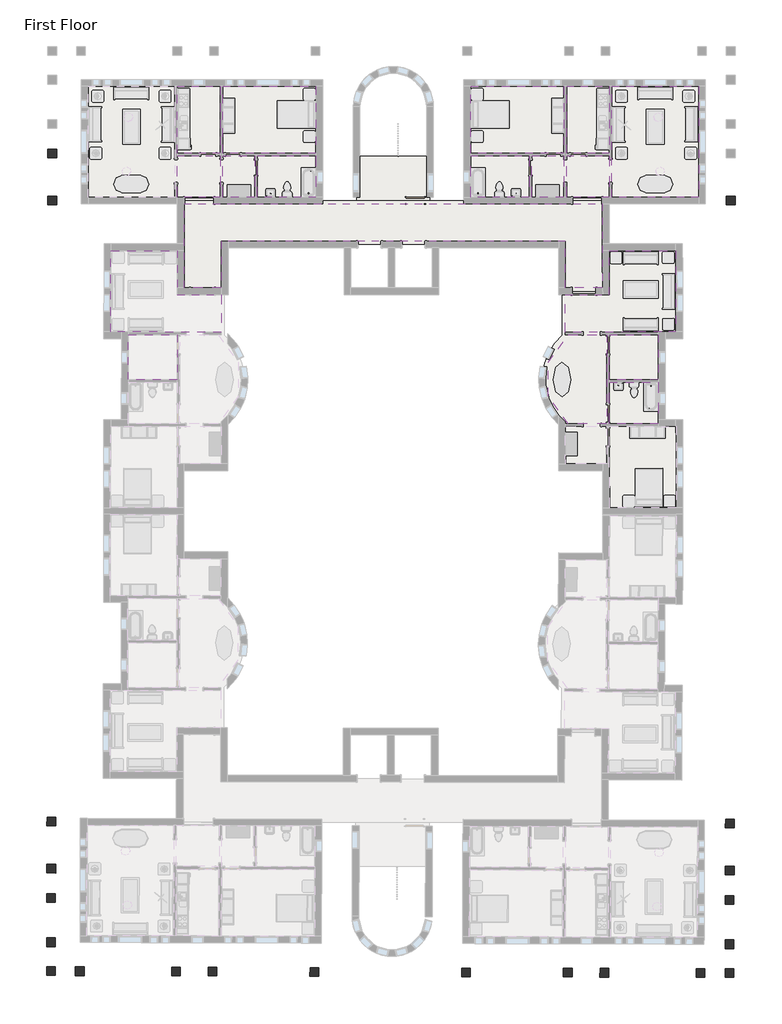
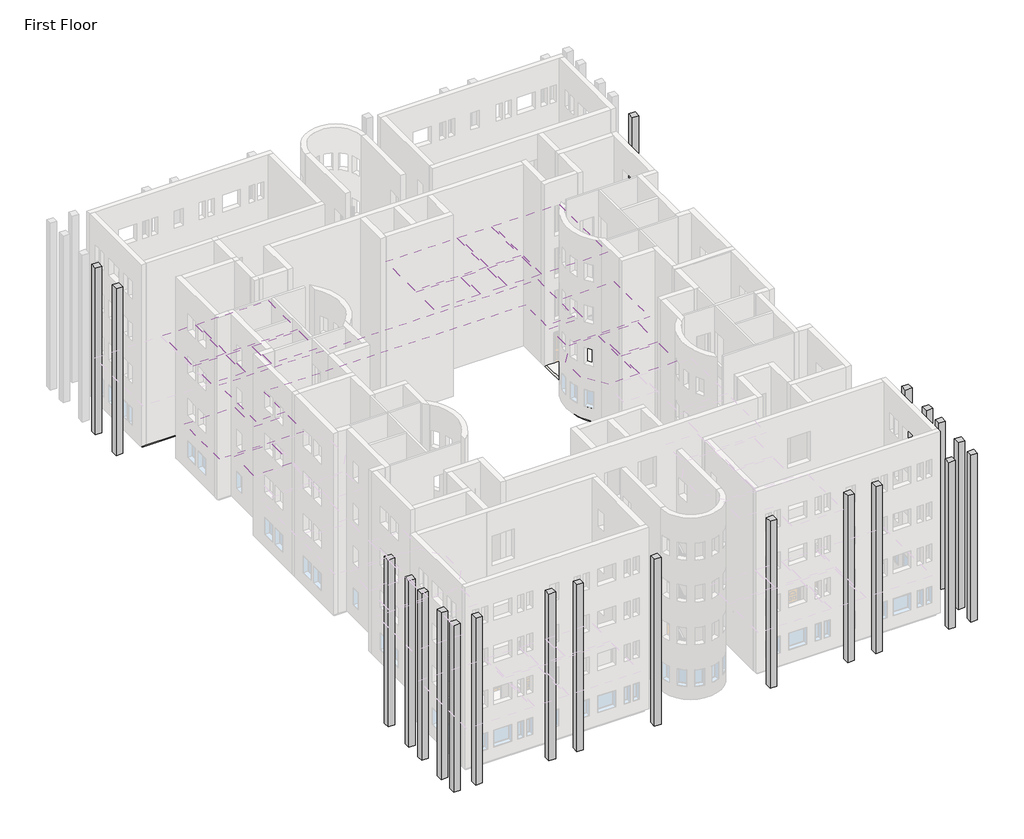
# One storey, part 17 of 22: 21 columns, 18 coverings, 5 slabs.
"""IFC4 building model written with IfcOpenShell, lengths in millimetres."""

from ifc_helpers import new_model, si_unit, point, frame, frame_2d, origin, place, context, project, spatial, polyline, circle_curve, trimmed, segment, composite_curve, outline, extrude, faceted_brep, element, save

model = new_model("IFC4")

# Units and contexts
model_context = context("Model", 3, world=origin())
ifc_project = project(units=[si_unit("LENGTHUNIT", "METRE", prefix="MILLI")], contexts=[model_context])

# Site, building, storey
site = spatial("IfcSite", under=ifc_project)
building = spatial("IfcBuilding", under=site)
storey = spatial("IfcBuildingStorey", under=building, Name="First Floor", Elevation=0.0)

# Columns
placement = place(None, origin())
element("IfcColumn", 1, ObjectType="M_Concrete-Square-Column : 450 x 450mm", at=placement, inside=storey, context=model_context, shape_type="Brep", body=[
    faceted_brep([(-1193.3416203, -3289.8811614, 0.0), (-1193.3416203, -3739.8811614, 0.0), (-1643.3416203, -3739.8811614, 0.0), (-1643.3416203, -3289.8811614, 0.0), (-1193.3416203, -3289.8811614, 12042.0), (-1193.3416203, -3739.8811614, 12042.0), (-1193.3416203, -3739.8811614, 11742.0), (-1193.3416203, -3289.8811614, 11742.0), (-1643.3416203, -3739.8811614, 12042.0), (-1643.3416203, -3739.8811614, 11742.0), (-1643.3416203, -3289.8811614, 12042.0), (-1643.3416203, -3289.8811614, 11742.0)], [[[0, 1, 2, 3]], [[4, 5, 6, 1, 0, 7]], [[5, 8, 9, 2, 1, 6]], [[8, 10, 11, 3, 2, 9]], [[10, 4, 7, 0, 3, 11]], [[4, 10, 8, 5]]]),
])
element("IfcColumn", 2, ObjectType="M_Concrete-Square-Column : 450 x 450mm", at=placement, inside=storey, context=model_context, shape_type="Brep", body=[
    faceted_brep([(-36908.8416203, -845.3811614, 0.0), (-36458.8416203, -845.3811614, 0.0), (-36458.8416203, -1295.3811614, 0.0), (-36908.8416203, -1295.3811614, 0.0), (-36908.8416203, -845.3811614, 12042.0), (-36908.8416203, -845.3811614, 11742.0), (-36908.8416203, -845.3811614, 9144.0), (-36908.8416203, -845.3811614, 8694.0), (-36908.8416203, -845.3811614, 6096.0), (-36908.8416203, -845.3811614, 5646.0), (-36908.8416203, -845.3811614, 3048.0), (-36908.8416203, -845.3811614, 2598.0), (-36908.8416203, -1295.3811614, 2598.0), (-36908.8416203, -1295.3811614, 3048.0), (-36908.8416203, -1295.3811614, 5646.0), (-36908.8416203, -1295.3811614, 6096.0), (-36908.8416203, -1295.3811614, 8694.0), (-36908.8416203, -1295.3811614, 9144.0), (-36908.8416203, -1295.3811614, 11742.0), (-36908.8416203, -1295.3811614, 12042.0), (-36458.8416203, -1295.3811614, 2598.0), (-36458.8416203, -1295.3811614, 3048.0), (-36458.8416203, -1295.3811614, 5646.0), (-36458.8416203, -1295.3811614, 6096.0), (-36458.8416203, -1295.3811614, 8694.0), (-36458.8416203, -1295.3811614, 9144.0), (-36458.8416203, -1295.3811614, 11742.0), (-36458.8416203, -1295.3811614, 12042.0), (-36458.8416203, -845.3811614, 2598.0), (-36458.8416203, -845.3811614, 3048.0), (-36458.8416203, -845.3811614, 5646.0), (-36458.8416203, -845.3811614, 6096.0), (-36458.8416203, -845.3811614, 8694.0), (-36458.8416203, -845.3811614, 9144.0), (-36458.8416203, -845.3811614, 11742.0), (-36458.8416203, -845.3811614, 12042.0)], [[[0, 1, 2, 3]], [[4, 5, 6, 7, 8, 9, 10, 11, 0, 3, 12, 13, 14, 15, 16, 17, 18, 19]], [[19, 18, 17, 16, 15, 14, 13, 12, 3, 2, 20, 21, 22, 23, 24, 25, 26, 27]], [[27, 26, 25, 24, 23, 22, 21, 20, 2, 1, 28, 29, 30, 31, 32, 33, 34, 35]], [[35, 34, 33, 32, 31, 30, 29, 28, 1, 0, 11, 10, 9, 8, 7, 6, 5, 4]], [[4, 19, 27, 35]]]),
])
element("IfcColumn", 3, ObjectType="M_Concrete-Square-Column : 450 x 450mm", at=placement, inside=storey, context=model_context, shape_type="Brep", body=[
    faceted_brep([(-36908.8416203, -3289.8811614, 0.0), (-36458.8416203, -3289.8811614, 0.0), (-36458.8416203, -3739.8811614, 0.0), (-36908.8416203, -3739.8811614, 0.0), (-36908.8416203, -3289.8811614, 12042.0), (-36908.8416203, -3289.8811614, 11742.0), (-36908.8416203, -3739.8811614, 11742.0), (-36908.8416203, -3739.8811614, 12042.0), (-36458.8416203, -3739.8811614, 11742.0), (-36458.8416203, -3739.8811614, 12042.0), (-36458.8416203, -3289.8811614, 11742.0), (-36458.8416203, -3289.8811614, 12042.0)], [[[0, 1, 2, 3]], [[4, 5, 0, 3, 6, 7]], [[7, 6, 3, 2, 8, 9]], [[9, 8, 2, 1, 10, 11]], [[11, 10, 1, 0, 5, 4]], [[4, 7, 9, 11]]]),
])
element("IfcColumn", 4, ObjectType="M_Concrete-Square-Column : 450 x 450mm", at=placement, inside=storey, context=model_context, shape_type="Brep", body=[
    faceted_brep([(-2763.3672453, -43898.1641037, 0.0), (-3213.3653598, -43896.8614194, 0.0), (-3212.0626755, -43446.863305, 0.0), (-2762.0645611, -43448.1659892, 0.0), (-2763.3672453, -43898.1641037, 12042.0), (-2763.3672453, -43898.1641037, 11742.0), (-2763.3672453, -43898.1641037, 9144.0), (-2763.3672453, -43898.1641037, 8694.0), (-2763.3672453, -43898.1641037, 6096.0), (-2763.3672453, -43898.1641037, 5646.0), (-2763.3672453, -43898.1641037, 3048.0), (-2763.3672453, -43898.1641037, 2598.0), (-2762.0645611, -43448.1659892, 2598.0), (-2762.0645611, -43448.1659892, 3048.0), (-2762.0645611, -43448.1659892, 5646.0), (-2762.0645611, -43448.1659892, 6096.0), (-2762.0645611, -43448.1659892, 8694.0), (-2762.0645611, -43448.1659892, 9144.0), (-2762.0645611, -43448.1659892, 11742.0), (-2762.0645611, -43448.1659892, 12042.0), (-3212.0626755, -43446.863305, 2598.0), (-3212.0626755, -43446.863305, 3048.0), (-3212.0626755, -43446.863305, 5646.0), (-3212.0626755, -43446.863305, 6096.0), (-3212.0626755, -43446.863305, 8694.0), (-3212.0626755, -43446.863305, 9144.0), (-3212.0626755, -43446.863305, 11742.0), (-3212.0626755, -43446.863305, 12042.0), (-3213.3653598, -43896.8614194, 2598.0), (-3213.3653598, -43896.8614194, 3048.0), (-3213.3653598, -43896.8614194, 5646.0), (-3213.3653598, -43896.8614194, 6096.0), (-3213.3653598, -43896.8614194, 8694.0), (-3213.3653598, -43896.8614194, 9144.0), (-3213.3653598, -43896.8614194, 11742.0), (-3213.3653598, -43896.8614194, 12042.0)], [[[0, 1, 2, 3]], [[4, 5, 6, 7, 8, 9, 10, 11, 0, 3, 12, 13, 14, 15, 16, 17, 18, 19]], [[19, 18, 17, 16, 15, 14, 13, 12, 3, 2, 20, 21, 22, 23, 24, 25, 26, 27]], [[27, 26, 25, 24, 23, 22, 21, 20, 2, 1, 28, 29, 30, 31, 32, 33, 34, 35]], [[35, 34, 33, 32, 31, 30, 29, 28, 1, 0, 11, 10, 9, 8, 7, 6, 5, 4]], [[4, 19, 27, 35]]]),
])
element("IfcColumn", 5, ObjectType="M_Concrete-Square-Column : 450 x 450mm", at=placement, inside=storey, context=model_context, shape_type="Brep", body=[
    faceted_brep([(-7763.3462948, -43883.6898341, 0.0), (-8213.3444093, -43882.3871498, 0.0), (-8212.041725, -43432.3890354, 0.0), (-7762.0436106, -43433.6917196, 0.0), (-7763.3462948, -43883.6898341, 12042.0), (-7763.3462948, -43883.6898341, 11742.0), (-7763.3462948, -43883.6898341, 9144.0), (-7763.3462948, -43883.6898341, 8694.0), (-7763.3462948, -43883.6898341, 6096.0), (-7763.3462948, -43883.6898341, 5646.0), (-7763.3462948, -43883.6898341, 3048.0), (-7763.3462948, -43883.6898341, 2598.0), (-7762.0436106, -43433.6917196, 2598.0), (-7762.0436106, -43433.6917196, 3048.0), (-7762.0436106, -43433.6917196, 5646.0), (-7762.0436106, -43433.6917196, 6096.0), (-7762.0436106, -43433.6917196, 8694.0), (-7762.0436106, -43433.6917196, 9144.0), (-7762.0436106, -43433.6917196, 11742.0), (-7762.0436106, -43433.6917196, 12042.0), (-8212.041725, -43432.3890354, 2598.0), (-8212.041725, -43432.3890354, 3048.0), (-8212.041725, -43432.3890354, 5646.0), (-8212.041725, -43432.3890354, 6096.0), (-8212.041725, -43432.3890354, 8694.0), (-8212.041725, -43432.3890354, 9144.0), (-8212.041725, -43432.3890354, 11742.0), (-8212.041725, -43432.3890354, 12042.0), (-8213.3444093, -43882.3871498, 2598.0), (-8213.3444093, -43882.3871498, 3048.0), (-8213.3444093, -43882.3871498, 5646.0), (-8213.3444093, -43882.3871498, 6096.0), (-8213.3444093, -43882.3871498, 8694.0), (-8213.3444093, -43882.3871498, 9144.0), (-8213.3444093, -43882.3871498, 11742.0), (-8213.3444093, -43882.3871498, 12042.0)], [[[0, 1, 2, 3]], [[4, 5, 6, 7, 8, 9, 10, 11, 0, 3, 12, 13, 14, 15, 16, 17, 18, 19]], [[19, 18, 17, 16, 15, 14, 13, 12, 3, 2, 20, 21, 22, 23, 24, 25, 26, 27]], [[27, 26, 25, 24, 23, 22, 21, 20, 2, 1, 28, 29, 30, 31, 32, 33, 34, 35]], [[35, 34, 33, 32, 31, 30, 29, 28, 1, 0, 11, 10, 9, 8, 7, 6, 5, 4]], [[4, 19, 27, 35]]]),
])
element("IfcColumn", 6, ObjectType="M_Concrete-Square-Column : 450 x 450mm", at=placement, inside=storey, context=model_context, shape_type="Brep", body=[
    faceted_brep([(-9663.3383336, -43878.1896117, 0.0), (-10113.3364481, -43876.8869274, 0.0), (-10112.0337638, -43426.888813, 0.0), (-9662.0356494, -43428.1914972, 0.0), (-9663.3383336, -43878.1896117, 12042.0), (-9663.3383336, -43878.1896117, 11742.0), (-9663.3383336, -43878.1896117, 9144.0), (-9663.3383336, -43878.1896117, 8694.0), (-9663.3383336, -43878.1896117, 6096.0), (-9663.3383336, -43878.1896117, 5646.0), (-9663.3383336, -43878.1896117, 3048.0), (-9663.3383336, -43878.1896117, 2598.0), (-9662.0356494, -43428.1914972, 2598.0), (-9662.0356494, -43428.1914972, 3048.0), (-9662.0356494, -43428.1914972, 5646.0), (-9662.0356494, -43428.1914972, 6096.0), (-9662.0356494, -43428.1914972, 8694.0), (-9662.0356494, -43428.1914972, 9144.0), (-9662.0356494, -43428.1914972, 11742.0), (-9662.0356494, -43428.1914972, 12042.0), (-10112.0337638, -43426.888813, 2598.0), (-10112.0337638, -43426.888813, 3048.0), (-10112.0337638, -43426.888813, 5646.0), (-10112.0337638, -43426.888813, 6096.0), (-10112.0337638, -43426.888813, 8694.0), (-10112.0337638, -43426.888813, 9144.0), (-10112.0337638, -43426.888813, 11742.0), (-10112.0337638, -43426.888813, 12042.0), (-10113.3364481, -43876.8869274, 2598.0), (-10113.3364481, -43876.8869274, 3048.0), (-10113.3364481, -43876.8869274, 5646.0), (-10113.3364481, -43876.8869274, 6096.0), (-10113.3364481, -43876.8869274, 8694.0), (-10113.3364481, -43876.8869274, 9144.0), (-10113.3364481, -43876.8869274, 11742.0), (-10113.3364481, -43876.8869274, 12042.0)], [[[0, 1, 2, 3]], [[4, 5, 6, 7, 8, 9, 10, 11, 0, 3, 12, 13, 14, 15, 16, 17, 18, 19]], [[19, 18, 17, 16, 15, 14, 13, 12, 3, 2, 20, 21, 22, 23, 24, 25, 26, 27]], [[27, 26, 25, 24, 23, 22, 21, 20, 2, 1, 28, 29, 30, 31, 32, 33, 34, 35]], [[35, 34, 33, 32, 31, 30, 29, 28, 1, 0, 11, 10, 9, 8, 7, 6, 5, 4]], [[4, 19, 27, 35]]]),
])
element("IfcColumn", 7, ObjectType="M_Concrete-Square-Column : 450 x 450mm", at=placement, inside=storey, context=model_context, shape_type="Brep", body=[
    faceted_brep([(-14955.3161596, -43862.8700448, 0.0), (-15405.3142741, -43861.5673605, 0.0), (-15404.0115898, -43411.569246, 0.0), (-14954.0134754, -43412.8719303, 0.0), (-14955.3161596, -43862.8700448, 12042.0), (-14955.3161596, -43862.8700448, 11742.0), (-14954.0134754, -43412.8719303, 11742.0), (-14954.0134754, -43412.8719303, 12042.0), (-15404.0115898, -43411.569246, 11742.0), (-15404.0115898, -43411.569246, 12042.0), (-15405.3142741, -43861.5673605, 11742.0), (-15405.3142741, -43861.5673605, 12042.0)], [[[0, 1, 2, 3]], [[4, 5, 0, 3, 6, 7]], [[7, 6, 3, 2, 8, 9]], [[9, 8, 2, 1, 10, 11]], [[11, 10, 1, 0, 5, 4]], [[4, 7, 9, 11]]]),
])
element("IfcColumn", 8, ObjectType="M_Concrete-Square-Column : 450 x 450mm", at=placement, inside=storey, context=model_context, shape_type="Brep", body=[
    faceted_brep([(-1263.3735305, -43902.5063845, 0.0), (-1713.3716449, -43901.2037003, 0.0), (-1712.0689607, -43451.2055858, 0.0), (-1262.0708462, -43452.5082701, 0.0), (-1263.3735305, -43902.5063845, 12042.0), (-1262.0708462, -43452.5082701, 11742.0), (-1262.0708462, -43452.5082701, 12042.0), (-1712.0689607, -43451.2055858, 11742.0), (-1712.0689607, -43451.2055858, 12042.0), (-1713.3716449, -43901.2037003, 11742.0), (-1713.3716449, -43901.2037003, 12042.0)], [[[0, 1, 2, 3]], [[4, 0, 3, 5, 6]], [[6, 5, 3, 2, 7, 8]], [[8, 7, 2, 1, 9, 10]], [[10, 9, 1, 0, 4]], [[4, 6, 8, 10]]]),
])
element("IfcColumn", 9, ObjectType="M_Concrete-Square-Column : 450 x 450mm", at=placement, inside=storey, context=model_context, shape_type="Brep", body=[
    faceted_brep([(-1259.0312496, -42402.5126697, 0.0), (-1709.0293641, -42401.2099854, 0.0), (-1707.7266798, -41951.211871, 0.0), (-1257.7285653, -41952.5145552, 0.0), (-1259.0312496, -42402.5126697, 12042.0), (-1259.0312496, -42402.5126697, 11742.0), (-1259.0312496, -42402.5126697, 9144.0), (-1259.0312496, -42402.5126697, 8694.0), (-1259.0312496, -42402.5126697, 6096.0), (-1259.0312496, -42402.5126697, 5646.0), (-1259.0312496, -42402.5126697, 3048.0), (-1259.0312496, -42402.5126697, 2598.0), (-1257.7285653, -41952.5145552, 2598.0), (-1257.7285653, -41952.5145552, 3048.0), (-1257.7285653, -41952.5145552, 5646.0), (-1257.7285653, -41952.5145552, 6096.0), (-1257.7285653, -41952.5145552, 8694.0), (-1257.7285653, -41952.5145552, 9144.0), (-1257.7285653, -41952.5145552, 11742.0), (-1257.7285653, -41952.5145552, 12042.0), (-1707.7266798, -41951.211871, 2598.0), (-1707.7266798, -41951.211871, 3048.0), (-1707.7266798, -41951.211871, 5646.0), (-1707.7266798, -41951.211871, 6096.0), (-1707.7266798, -41951.211871, 8694.0), (-1707.7266798, -41951.211871, 9144.0), (-1707.7266798, -41951.211871, 11742.0), (-1707.7266798, -41951.211871, 12042.0), (-1709.0293641, -42401.2099854, 2598.0), (-1709.0293641, -42401.2099854, 3048.0), (-1709.0293641, -42401.2099854, 5646.0), (-1709.0293641, -42401.2099854, 6096.0), (-1709.0293641, -42401.2099854, 8694.0), (-1709.0293641, -42401.2099854, 9144.0), (-1709.0293641, -42401.2099854, 11742.0), (-1709.0293641, -42401.2099854, 12042.0)], [[[0, 1, 2, 3]], [[4, 5, 6, 7, 8, 9, 10, 11, 0, 3, 12, 13, 14, 15, 16, 17, 18, 19]], [[19, 18, 17, 16, 15, 14, 13, 12, 3, 2, 20, 21, 22, 23, 24, 25, 26, 27]], [[27, 26, 25, 24, 23, 22, 21, 20, 2, 1, 28, 29, 30, 31, 32, 33, 34, 35]], [[35, 34, 33, 32, 31, 30, 29, 28, 1, 0, 11, 10, 9, 8, 7, 6, 5, 4]], [[4, 19, 27, 35]]]),
])
element("IfcColumn", 10, ObjectType="M_Concrete-Square-Column : 450 x 450mm", at=placement, inside=storey, context=model_context, shape_type="Brep", body=[
    faceted_brep([(-1252.3730856, -40102.5223069, 0.0), (-1702.3712001, -40101.2196227, 0.0), (-1701.0685158, -39651.2215082, 0.0), (-1251.0704013, -39652.5241925, 0.0), (-1252.3730856, -40102.5223069, 12042.0), (-1252.3730856, -40102.5223069, 11742.0), (-1252.3730856, -40102.5223069, 9144.0), (-1252.3730856, -40102.5223069, 8694.0), (-1252.3730856, -40102.5223069, 6096.0), (-1252.3730856, -40102.5223069, 5646.0), (-1252.3730856, -40102.5223069, 3048.0), (-1252.3730856, -40102.5223069, 2598.0), (-1251.0704013, -39652.5241925, 2598.0), (-1251.0704013, -39652.5241925, 3048.0), (-1251.0704013, -39652.5241925, 5646.0), (-1251.0704013, -39652.5241925, 6096.0), (-1251.0704013, -39652.5241925, 8694.0), (-1251.0704013, -39652.5241925, 9144.0), (-1251.0704013, -39652.5241925, 11742.0), (-1251.0704013, -39652.5241925, 12042.0), (-1701.0685158, -39651.2215082, 2598.0), (-1701.0685158, -39651.2215082, 3048.0), (-1701.0685158, -39651.2215082, 5646.0), (-1701.0685158, -39651.2215082, 6096.0), (-1701.0685158, -39651.2215082, 8694.0), (-1701.0685158, -39651.2215082, 9144.0), (-1701.0685158, -39651.2215082, 11742.0), (-1701.0685158, -39651.2215082, 12042.0), (-1702.3712001, -40101.2196227, 2598.0), (-1702.3712001, -40101.2196227, 3048.0), (-1702.3712001, -40101.2196227, 5646.0), (-1702.3712001, -40101.2196227, 6096.0), (-1702.3712001, -40101.2196227, 8694.0), (-1702.3712001, -40101.2196227, 9144.0), (-1702.3712001, -40101.2196227, 11742.0), (-1702.3712001, -40101.2196227, 12042.0)], [[[0, 1, 2, 3]], [[4, 5, 6, 7, 8, 9, 10, 11, 0, 3, 12, 13, 14, 15, 16, 17, 18, 19]], [[19, 18, 17, 16, 15, 14, 13, 12, 3, 2, 20, 21, 22, 23, 24, 25, 26, 27]], [[27, 26, 25, 24, 23, 22, 21, 20, 2, 1, 28, 29, 30, 31, 32, 33, 34, 35]], [[35, 34, 33, 32, 31, 30, 29, 28, 1, 0, 11, 10, 9, 8, 7, 6, 5, 4]], [[4, 19, 27, 35]]]),
])
element("IfcColumn", 11, ObjectType="M_Concrete-Square-Column : 450 x 450mm", at=placement, inside=storey, context=model_context, shape_type="Brep", body=[
    faceted_brep([(-1247.9540911, -38576.0287031, 0.0), (-1697.9522056, -38574.7260188, 0.0), (-1696.6495213, -38124.7279044, 0.0), (-1246.6514068, -38126.0305886, 0.0), (-1247.9540911, -38576.0287031, 12042.0), (-1247.9540911, -38576.0287031, 11742.0), (-1247.9540911, -38576.0287031, 9144.0), (-1247.9540911, -38576.0287031, 8694.0), (-1247.9540911, -38576.0287031, 6096.0), (-1247.9540911, -38576.0287031, 5646.0), (-1247.9540911, -38576.0287031, 3048.0), (-1247.9540911, -38576.0287031, 2598.0), (-1246.6514068, -38126.0305886, 2598.0), (-1246.6514068, -38126.0305886, 3048.0), (-1246.6514068, -38126.0305886, 5646.0), (-1246.6514068, -38126.0305886, 6096.0), (-1246.6514068, -38126.0305886, 8694.0), (-1246.6514068, -38126.0305886, 9144.0), (-1246.6514068, -38126.0305886, 11742.0), (-1246.6514068, -38126.0305886, 12042.0), (-1696.6495213, -38124.7279044, 2598.0), (-1696.6495213, -38124.7279044, 3048.0), (-1696.6495213, -38124.7279044, 5646.0), (-1696.6495213, -38124.7279044, 6096.0), (-1696.6495213, -38124.7279044, 8694.0), (-1696.6495213, -38124.7279044, 9144.0), (-1696.6495213, -38124.7279044, 11742.0), (-1696.6495213, -38124.7279044, 12042.0), (-1697.9522056, -38574.7260188, 2598.0), (-1697.9522056, -38574.7260188, 3048.0), (-1697.9522056, -38574.7260188, 5646.0), (-1697.9522056, -38574.7260188, 6096.0), (-1697.9522056, -38574.7260188, 8694.0), (-1697.9522056, -38574.7260188, 9144.0), (-1697.9522056, -38574.7260188, 11742.0), (-1697.9522056, -38574.7260188, 12042.0)], [[[0, 1, 2, 3]], [[4, 5, 6, 7, 8, 9, 10, 11, 0, 3, 12, 13, 14, 15, 16, 17, 18, 19]], [[19, 18, 17, 16, 15, 14, 13, 12, 3, 2, 20, 21, 22, 23, 24, 25, 26, 27]], [[27, 26, 25, 24, 23, 22, 21, 20, 2, 1, 28, 29, 30, 31, 32, 33, 34, 35]], [[35, 34, 33, 32, 31, 30, 29, 28, 1, 0, 11, 10, 9, 8, 7, 6, 5, 4]], [[4, 19, 27, 35]]]),
])
element("IfcColumn", 12, ObjectType="M_Concrete-Square-Column : 450 x 450mm", at=placement, inside=storey, context=model_context, shape_type="Brep", body=[
    faceted_brep([(-1240.8776207, -36131.5389458, 0.0), (-1690.8757352, -36130.2362615, 0.0), (-1689.5730509, -35680.2381471, 0.0), (-1239.5749364, -35681.5408313, 0.0), (-1240.8776207, -36131.5389458, 12042.0), (-1240.8776207, -36131.5389458, 11742.0), (-1239.5749364, -35681.5408313, 11742.0), (-1239.5749364, -35681.5408313, 12042.0), (-1689.5730509, -35680.2381471, 11742.0), (-1689.5730509, -35680.2381471, 12042.0), (-1690.8757352, -36130.2362615, 11742.0), (-1690.8757352, -36130.2362615, 12042.0)], [[[0, 1, 2, 3]], [[4, 5, 0, 3, 6, 7]], [[7, 6, 3, 2, 8, 9]], [[9, 8, 2, 1, 10, 11]], [[11, 10, 1, 0, 5, 4]], [[4, 7, 9, 11]]]),
])
element("IfcColumn", 13, ObjectType="M_Concrete-Square-Column : 450 x 450mm", at=placement, inside=storey, context=model_context, shape_type="Brep", body=[
    faceted_brep([(-35478.7301642, -43803.4575104, 0.0), (-35477.4274799, -43353.459396, 0.0), (-35027.4293654, -43354.7620803, 0.0), (-35028.7320497, -43804.7601947, 0.0), (-35478.7301642, -43803.4575104, 12042.0), (-35477.4274799, -43353.459396, 12042.0), (-35477.4274799, -43353.459396, 11742.0), (-35477.4274799, -43353.459396, 9144.0), (-35477.4274799, -43353.459396, 8694.0), (-35477.4274799, -43353.459396, 6096.0), (-35477.4274799, -43353.459396, 5646.0), (-35477.4274799, -43353.459396, 3048.0), (-35477.4274799, -43353.459396, 2598.0), (-35478.7301642, -43803.4575104, 2598.0), (-35478.7301642, -43803.4575104, 3048.0), (-35478.7301642, -43803.4575104, 5646.0), (-35478.7301642, -43803.4575104, 6096.0), (-35478.7301642, -43803.4575104, 8694.0), (-35478.7301642, -43803.4575104, 9144.0), (-35478.7301642, -43803.4575104, 11742.0), (-35027.4293654, -43354.7620803, 12042.0), (-35027.4293654, -43354.7620803, 11742.0), (-35027.4293654, -43354.7620803, 9144.0), (-35027.4293654, -43354.7620803, 8694.0), (-35027.4293654, -43354.7620803, 6096.0), (-35027.4293654, -43354.7620803, 5646.0), (-35027.4293654, -43354.7620803, 3048.0), (-35027.4293654, -43354.7620803, 2598.0), (-35028.7320497, -43804.7601947, 12042.0), (-35028.7320497, -43804.7601947, 11742.0), (-35028.7320497, -43804.7601947, 9144.0), (-35028.7320497, -43804.7601947, 8694.0), (-35028.7320497, -43804.7601947, 6096.0), (-35028.7320497, -43804.7601947, 5646.0), (-35028.7320497, -43804.7601947, 3048.0), (-35028.7320497, -43804.7601947, 2598.0)], [[[0, 1, 2, 3]], [[4, 5, 6, 7, 8, 9, 10, 11, 12, 1, 0, 13, 14, 15, 16, 17, 18, 19]], [[5, 20, 21, 22, 23, 24, 25, 26, 27, 2, 1, 12, 11, 10, 9, 8, 7, 6]], [[20, 28, 29, 30, 31, 32, 33, 34, 35, 3, 2, 27, 26, 25, 24, 23, 22, 21]], [[28, 4, 19, 18, 17, 16, 15, 14, 13, 0, 3, 35, 34, 33, 32, 31, 30, 29]], [[4, 28, 20, 5]]]),
])
element("IfcColumn", 14, ObjectType="M_Concrete-Square-Column : 450 x 450mm", at=placement, inside=storey, context=model_context, shape_type="Brep", body=[
    faceted_brep([(-30478.7511147, -43817.93178, 0.0), (-30477.4484304, -43367.9336656, 0.0), (-30027.4503159, -43369.2363498, 0.0), (-30028.7530002, -43819.2344643, 0.0), (-30478.7511147, -43817.93178, 12042.0), (-30477.4484304, -43367.9336656, 12042.0), (-30477.4484304, -43367.9336656, 11742.0), (-30477.4484304, -43367.9336656, 9144.0), (-30477.4484304, -43367.9336656, 8694.0), (-30477.4484304, -43367.9336656, 6096.0), (-30477.4484304, -43367.9336656, 5646.0), (-30477.4484304, -43367.9336656, 3048.0), (-30477.4484304, -43367.9336656, 2598.0), (-30478.7511147, -43817.93178, 2598.0), (-30478.7511147, -43817.93178, 3048.0), (-30478.7511147, -43817.93178, 5646.0), (-30478.7511147, -43817.93178, 6096.0), (-30478.7511147, -43817.93178, 8694.0), (-30478.7511147, -43817.93178, 9144.0), (-30478.7511147, -43817.93178, 11742.0), (-30027.4503159, -43369.2363498, 12042.0), (-30027.4503159, -43369.2363498, 11742.0), (-30027.4503159, -43369.2363498, 9144.0), (-30027.4503159, -43369.2363498, 8694.0), (-30027.4503159, -43369.2363498, 6096.0), (-30027.4503159, -43369.2363498, 5646.0), (-30027.4503159, -43369.2363498, 3048.0), (-30027.4503159, -43369.2363498, 2598.0), (-30028.7530002, -43819.2344643, 12042.0), (-30028.7530002, -43819.2344643, 11742.0), (-30028.7530002, -43819.2344643, 9144.0), (-30028.7530002, -43819.2344643, 8694.0), (-30028.7530002, -43819.2344643, 6096.0), (-30028.7530002, -43819.2344643, 5646.0), (-30028.7530002, -43819.2344643, 3048.0), (-30028.7530002, -43819.2344643, 2598.0)], [[[0, 1, 2, 3]], [[4, 5, 6, 7, 8, 9, 10, 11, 12, 1, 0, 13, 14, 15, 16, 17, 18, 19]], [[5, 20, 21, 22, 23, 24, 25, 26, 27, 2, 1, 12, 11, 10, 9, 8, 7, 6]], [[20, 28, 29, 30, 31, 32, 33, 34, 35, 3, 2, 27, 26, 25, 24, 23, 22, 21]], [[28, 4, 19, 18, 17, 16, 15, 14, 13, 0, 3, 35, 34, 33, 32, 31, 30, 29]], [[4, 28, 20, 5]]]),
])
element("IfcColumn", 15, ObjectType="M_Concrete-Square-Column : 450 x 450mm", at=placement, inside=storey, context=model_context, shape_type="Brep", body=[
    faceted_brep([(-28578.7590758, -43823.4320025, 0.0), (-28577.4563916, -43373.433888, 0.0), (-28127.4582771, -43374.7365723, 0.0), (-28128.7609614, -43824.7346867, 0.0), (-28578.7590758, -43823.4320025, 12042.0), (-28577.4563916, -43373.433888, 12042.0), (-28577.4563916, -43373.433888, 11742.0), (-28577.4563916, -43373.433888, 9144.0), (-28577.4563916, -43373.433888, 8694.0), (-28577.4563916, -43373.433888, 6096.0), (-28577.4563916, -43373.433888, 5646.0), (-28577.4563916, -43373.433888, 3048.0), (-28577.4563916, -43373.433888, 2598.0), (-28578.7590758, -43823.4320025, 2598.0), (-28578.7590758, -43823.4320025, 3048.0), (-28578.7590758, -43823.4320025, 5646.0), (-28578.7590758, -43823.4320025, 6096.0), (-28578.7590758, -43823.4320025, 8694.0), (-28578.7590758, -43823.4320025, 9144.0), (-28578.7590758, -43823.4320025, 11742.0), (-28127.4582771, -43374.7365723, 12042.0), (-28127.4582771, -43374.7365723, 11742.0), (-28127.4582771, -43374.7365723, 9144.0), (-28127.4582771, -43374.7365723, 8694.0), (-28127.4582771, -43374.7365723, 6096.0), (-28127.4582771, -43374.7365723, 5646.0), (-28127.4582771, -43374.7365723, 3048.0), (-28127.4582771, -43374.7365723, 2598.0), (-28128.7609614, -43824.7346867, 12042.0), (-28128.7609614, -43824.7346867, 11742.0), (-28128.7609614, -43824.7346867, 9144.0), (-28128.7609614, -43824.7346867, 8694.0), (-28128.7609614, -43824.7346867, 6096.0), (-28128.7609614, -43824.7346867, 5646.0), (-28128.7609614, -43824.7346867, 3048.0), (-28128.7609614, -43824.7346867, 2598.0)], [[[0, 1, 2, 3]], [[4, 5, 6, 7, 8, 9, 10, 11, 12, 1, 0, 13, 14, 15, 16, 17, 18, 19]], [[5, 20, 21, 22, 23, 24, 25, 26, 27, 2, 1, 12, 11, 10, 9, 8, 7, 6]], [[20, 28, 29, 30, 31, 32, 33, 34, 35, 3, 2, 27, 26, 25, 24, 23, 22, 21]], [[28, 4, 19, 18, 17, 16, 15, 14, 13, 0, 3, 35, 34, 33, 32, 31, 30, 29]], [[4, 28, 20, 5]]]),
])
element("IfcColumn", 16, ObjectType="M_Concrete-Square-Column : 450 x 450mm", at=placement, inside=storey, context=model_context, shape_type="Brep", body=[
    faceted_brep([(-23286.7812498, -43838.7515694, 0.0), (-23285.4785656, -43388.7534549, 0.0), (-22835.4804511, -43390.0561392, 0.0), (-22836.7831354, -43840.0542536, 0.0), (-23286.7812498, -43838.7515694, 12042.0), (-23285.4785656, -43388.7534549, 12042.0), (-23285.4785656, -43388.7534549, 11742.0), (-23286.7812498, -43838.7515694, 11742.0), (-22835.4804511, -43390.0561392, 12042.0), (-22835.4804511, -43390.0561392, 11742.0), (-22836.7831354, -43840.0542536, 12042.0), (-22836.7831354, -43840.0542536, 11742.0)], [[[0, 1, 2, 3]], [[4, 5, 6, 1, 0, 7]], [[5, 8, 9, 2, 1, 6]], [[8, 10, 11, 3, 2, 9]], [[10, 4, 7, 0, 3, 11]], [[4, 10, 8, 5]]]),
])
element("IfcColumn", 17, ObjectType="M_Concrete-Square-Column : 450 x 450mm", at=placement, inside=storey, context=model_context, shape_type="Brep", body=[
    faceted_brep([(-36978.723879, -43799.1152296, 0.0), (-36977.4211948, -43349.1171151, 0.0), (-36527.4230803, -43350.4197994, 0.0), (-36528.7257646, -43800.4179138, 0.0), (-36978.723879, -43799.1152296, 12042.0), (-36977.4211948, -43349.1171151, 12042.0), (-36977.4211948, -43349.1171151, 11742.0), (-36527.4230803, -43350.4197994, 12042.0), (-36527.4230803, -43350.4197994, 11742.0), (-36528.7257646, -43800.4179138, 12042.0), (-36528.7257646, -43800.4179138, 11742.0)], [[[0, 1, 2, 3]], [[4, 5, 6, 1, 0]], [[5, 7, 8, 2, 1, 6]], [[7, 9, 10, 3, 2, 8]], [[9, 4, 0, 3, 10]], [[4, 9, 7, 5]]]),
])
element("IfcColumn", 18, ObjectType="M_Concrete-Square-Column : 450 x 450mm", at=placement, inside=storey, context=model_context, shape_type="Brep", body=[
    faceted_brep([(-36974.3815981, -42299.1215147, 0.0), (-36973.0789139, -41849.1234003, 0.0), (-36523.0807994, -41850.4260845, 0.0), (-36524.3834837, -42300.424199, 0.0), (-36974.3815981, -42299.1215147, 12042.0), (-36973.0789139, -41849.1234003, 12042.0), (-36973.0789139, -41849.1234003, 11742.0), (-36973.0789139, -41849.1234003, 9144.0), (-36973.0789139, -41849.1234003, 8694.0), (-36973.0789139, -41849.1234003, 6096.0), (-36973.0789139, -41849.1234003, 5646.0), (-36973.0789139, -41849.1234003, 3048.0), (-36973.0789139, -41849.1234003, 2598.0), (-36974.3815981, -42299.1215147, 2598.0), (-36974.3815981, -42299.1215147, 3048.0), (-36974.3815981, -42299.1215147, 5646.0), (-36974.3815981, -42299.1215147, 6096.0), (-36974.3815981, -42299.1215147, 8694.0), (-36974.3815981, -42299.1215147, 9144.0), (-36974.3815981, -42299.1215147, 11742.0), (-36523.0807994, -41850.4260845, 12042.0), (-36523.0807994, -41850.4260845, 11742.0), (-36523.0807994, -41850.4260845, 9144.0), (-36523.0807994, -41850.4260845, 8694.0), (-36523.0807994, -41850.4260845, 6096.0), (-36523.0807994, -41850.4260845, 5646.0), (-36523.0807994, -41850.4260845, 3048.0), (-36523.0807994, -41850.4260845, 2598.0), (-36524.3834837, -42300.424199, 12042.0), (-36524.3834837, -42300.424199, 11742.0), (-36524.3834837, -42300.424199, 9144.0), (-36524.3834837, -42300.424199, 8694.0), (-36524.3834837, -42300.424199, 6096.0), (-36524.3834837, -42300.424199, 5646.0), (-36524.3834837, -42300.424199, 3048.0), (-36524.3834837, -42300.424199, 2598.0)], [[[0, 1, 2, 3]], [[4, 5, 6, 7, 8, 9, 10, 11, 12, 1, 0, 13, 14, 15, 16, 17, 18, 19]], [[5, 20, 21, 22, 23, 24, 25, 26, 27, 2, 1, 12, 11, 10, 9, 8, 7, 6]], [[20, 28, 29, 30, 31, 32, 33, 34, 35, 3, 2, 27, 26, 25, 24, 23, 22, 21]], [[28, 4, 19, 18, 17, 16, 15, 14, 13, 0, 3, 35, 34, 33, 32, 31, 30, 29]], [[4, 28, 20, 5]]]),
])
element("IfcColumn", 19, ObjectType="M_Concrete-Square-Column : 450 x 450mm", at=placement, inside=storey, context=model_context, shape_type="Brep", body=[
    faceted_brep([(-36967.7234341, -39999.1311519, 0.0), (-36966.4207499, -39549.1330375, 0.0), (-36516.4226354, -39550.4357218, 0.0), (-36517.7253197, -40000.4338362, 0.0), (-36967.7234341, -39999.1311519, 12042.0), (-36966.4207499, -39549.1330375, 12042.0), (-36966.4207499, -39549.1330375, 11742.0), (-36966.4207499, -39549.1330375, 9144.0), (-36966.4207499, -39549.1330375, 8694.0), (-36966.4207499, -39549.1330375, 6096.0), (-36966.4207499, -39549.1330375, 5646.0), (-36966.4207499, -39549.1330375, 3048.0), (-36966.4207499, -39549.1330375, 2598.0), (-36967.7234341, -39999.1311519, 2598.0), (-36967.7234341, -39999.1311519, 3048.0), (-36967.7234341, -39999.1311519, 5646.0), (-36967.7234341, -39999.1311519, 6096.0), (-36967.7234341, -39999.1311519, 8694.0), (-36967.7234341, -39999.1311519, 9144.0), (-36967.7234341, -39999.1311519, 11742.0), (-36516.4226354, -39550.4357218, 12042.0), (-36516.4226354, -39550.4357218, 11742.0), (-36516.4226354, -39550.4357218, 9144.0), (-36516.4226354, -39550.4357218, 8694.0), (-36516.4226354, -39550.4357218, 6096.0), (-36516.4226354, -39550.4357218, 5646.0), (-36516.4226354, -39550.4357218, 3048.0), (-36516.4226354, -39550.4357218, 2598.0), (-36517.7253197, -40000.4338362, 12042.0), (-36517.7253197, -40000.4338362, 11742.0), (-36517.7253197, -40000.4338362, 9144.0), (-36517.7253197, -40000.4338362, 8694.0), (-36517.7253197, -40000.4338362, 6096.0), (-36517.7253197, -40000.4338362, 5646.0), (-36517.7253197, -40000.4338362, 3048.0), (-36517.7253197, -40000.4338362, 2598.0)], [[[0, 1, 2, 3]], [[4, 5, 6, 7, 8, 9, 10, 11, 12, 1, 0, 13, 14, 15, 16, 17, 18, 19]], [[5, 20, 21, 22, 23, 24, 25, 26, 27, 2, 1, 12, 11, 10, 9, 8, 7, 6]], [[20, 28, 29, 30, 31, 32, 33, 34, 35, 3, 2, 27, 26, 25, 24, 23, 22, 21]], [[28, 4, 19, 18, 17, 16, 15, 14, 13, 0, 3, 35, 34, 33, 32, 31, 30, 29]], [[4, 28, 20, 5]]]),
])
element("IfcColumn", 20, ObjectType="M_Concrete-Square-Column : 450 x 450mm", at=placement, inside=storey, context=model_context, shape_type="Brep", body=[
    faceted_brep([(-36963.3044396, -38472.6375481, 0.0), (-36962.0017554, -38022.6394337, 0.0), (-36512.0036409, -38023.9421179, 0.0), (-36513.3063252, -38473.9402324, 0.0), (-36963.3044396, -38472.6375481, 12042.0), (-36962.0017554, -38022.6394337, 12042.0), (-36962.0017554, -38022.6394337, 11742.0), (-36962.0017554, -38022.6394337, 9144.0), (-36962.0017554, -38022.6394337, 8694.0), (-36962.0017554, -38022.6394337, 6096.0), (-36962.0017554, -38022.6394337, 5646.0), (-36962.0017554, -38022.6394337, 3048.0), (-36962.0017554, -38022.6394337, 2598.0), (-36963.3044396, -38472.6375481, 2598.0), (-36963.3044396, -38472.6375481, 3048.0), (-36963.3044396, -38472.6375481, 5646.0), (-36963.3044396, -38472.6375481, 6096.0), (-36963.3044396, -38472.6375481, 8694.0), (-36963.3044396, -38472.6375481, 9144.0), (-36963.3044396, -38472.6375481, 11742.0), (-36512.0036409, -38023.9421179, 12042.0), (-36512.0036409, -38023.9421179, 11742.0), (-36512.0036409, -38023.9421179, 9144.0), (-36512.0036409, -38023.9421179, 8694.0), (-36512.0036409, -38023.9421179, 6096.0), (-36512.0036409, -38023.9421179, 5646.0), (-36512.0036409, -38023.9421179, 3048.0), (-36512.0036409, -38023.9421179, 2598.0), (-36513.3063252, -38473.9402324, 12042.0), (-36513.3063252, -38473.9402324, 11742.0), (-36513.3063252, -38473.9402324, 9144.0), (-36513.3063252, -38473.9402324, 8694.0), (-36513.3063252, -38473.9402324, 6096.0), (-36513.3063252, -38473.9402324, 5646.0), (-36513.3063252, -38473.9402324, 3048.0), (-36513.3063252, -38473.9402324, 2598.0)], [[[0, 1, 2, 3]], [[4, 5, 6, 7, 8, 9, 10, 11, 12, 1, 0, 13, 14, 15, 16, 17, 18, 19]], [[5, 20, 21, 22, 23, 24, 25, 26, 27, 2, 1, 12, 11, 10, 9, 8, 7, 6]], [[20, 28, 29, 30, 31, 32, 33, 34, 35, 3, 2, 27, 26, 25, 24, 23, 22, 21]], [[28, 4, 19, 18, 17, 16, 15, 14, 13, 0, 3, 35, 34, 33, 32, 31, 30, 29]], [[4, 28, 20, 5]]]),
])
element("IfcColumn", 21, ObjectType="M_Concrete-Square-Column : 450 x 450mm", at=placement, inside=storey, context=model_context, shape_type="Brep", body=[
    faceted_brep([(-36956.2279692, -36028.1477908, 0.0), (-36954.925285, -35578.1496764, 0.0), (-36504.9271705, -35579.4523606, 0.0), (-36506.2298548, -36029.4504751, 0.0), (-36956.2279692, -36028.1477908, 12042.0), (-36954.925285, -35578.1496764, 12042.0), (-36954.925285, -35578.1496764, 11742.0), (-36956.2279692, -36028.1477908, 11742.0), (-36504.9271705, -35579.4523606, 12042.0), (-36504.9271705, -35579.4523606, 11742.0), (-36506.2298548, -36029.4504751, 12042.0), (-36506.2298548, -36029.4504751, 11742.0)], [[[0, 1, 2, 3]], [[4, 5, 6, 1, 0, 7]], [[5, 8, 9, 2, 1, 6]], [[8, 10, 11, 3, 2, 9]], [[10, 4, 7, 0, 3, 11]], [[4, 10, 8, 5]]]),
])

# Coverings
element("IfcCovering", 22, ObjectType="GWB on Metal stud", at=placement, inside=storey, context=model_context, shape_type="SweptSolid", body=[
    extrude(outline(polyline([(-14935.3416203, 2406.1188386), (-10086.8416203, 2406.1188386), (-10086.8416203, -1070.3811614), (-14935.3416203, -1070.3811614), (-14935.3416203, 2406.1188386)])), frame((0.0, 0.0, 2590.0), z_axis=(0.0, 0.0, 1.0), x_axis=(1.0, 0.0, 0.0)), (0.0, 0.0, 1.0), 57.0),
])
element("IfcCovering", 23, ObjectType="GWB on Metal stud", at=placement, inside=storey, context=model_context, shape_type="SweptSolid", body=[
    extrude(outline(polyline([(-9951.3416203, -1070.3811614), (-9951.3416203, 2406.1188386), (-7733.0916203, 2406.1188386), (-7733.0916203, -1070.3811614), (-9951.3416203, -1070.3811614)])), frame((0.0, 0.0, 2590.0), z_axis=(0.0, 0.0, 1.0), x_axis=(1.0, 0.0, 0.0)), (0.0, 0.0, 1.0), 57.0),
])
element("IfcCovering", 24, ObjectType="GWB on Metal stud", at=placement, inside=storey, context=model_context, shape_type="SweptSolid", body=[
    extrude(outline(polyline([(-7597.5916203, -3339.8811614), (-7597.5916203, 2406.1188386), (-3093.3416203, 2406.1188386), (-3093.3416203, -3339.8811614), (-7597.5916203, -3339.8811614)])), frame((0.0, 0.0, 2590.0), z_axis=(0.0, 0.0, 1.0), x_axis=(1.0, 0.0, 0.0)), (0.0, 0.0, 1.0), 57.0),
])
element("IfcCovering", 25, ObjectType="GWB on Metal stud", at=placement, inside=storey, context=model_context, shape_type="SweptSolid", body=[
    extrude(outline(polyline([(-7733.0916203, -3339.8811614), (-9951.3416203, -3339.8811614), (-9951.3416203, -1205.8811614), (-7733.0916203, -1205.8811614), (-7733.0916203, -3339.8811614)])), frame((0.0, 0.0, 2590.0), z_axis=(0.0, 0.0, 1.0), x_axis=(1.0, 0.0, 0.0)), (0.0, 0.0, 1.0), 57.0),
])
element("IfcCovering", 26, ObjectType="GWB on Metal stud", at=placement, inside=storey, context=model_context, shape_type="SweptSolid", body=[
    extrude(outline(polyline([(-11887.3416203, -1205.8811614), (-11887.3416203, -3339.8811614), (-14935.3416203, -3339.8811614), (-14935.3416203, -1205.8811614), (-11887.3416203, -1205.8811614)])), frame((0.0, 0.0, 2590.0), z_axis=(0.0, 0.0, 1.0), x_axis=(1.0, 0.0, 0.0)), (0.0, 0.0, 1.0), 57.0),
])
element("IfcCovering", 27, ObjectType="GWB on Metal stud", at=placement, inside=storey, context=model_context, shape_type="SweptSolid", body=[
    extrude(outline(polyline([(-10086.8416203, -3339.8811614), (-11751.8416203, -3339.8811614), (-11751.8416203, -1205.8811614), (-10086.8416203, -1205.8811614), (-10086.8416203, -3339.8811614)])), frame((0.0, 0.0, 2590.0), z_axis=(0.0, 0.0, 1.0), x_axis=(1.0, 0.0, 0.0)), (0.0, 0.0, 1.0), 57.0),
])
element("IfcCovering", 28, ObjectType="GWB on Metal stud", at=placement, inside=storey, context=model_context, shape_type="SweptSolid", body=[
    extrude(outline(polyline([(-22978.8416203, 2406.1188386), (-22978.8416203, -1070.3811614), (-27827.3416203, -1070.3811614), (-27827.3416203, 2406.1188386), (-22978.8416203, 2406.1188386)])), frame((0.0, 0.0, 2590.0), z_axis=(0.0, 0.0, 1.0), x_axis=(1.0, 0.0, 0.0)), (0.0, 0.0, 1.0), 57.0),
])
element("IfcCovering", 29, ObjectType="GWB on Metal stud", at=placement, inside=storey, context=model_context, shape_type="SweptSolid", body=[
    extrude(outline(polyline([(-27962.8416203, -1070.3811614), (-30181.0916203, -1070.3811614), (-30181.0916203, 2406.1188386), (-27962.8416203, 2406.1188386), (-27962.8416203, -1070.3811614)])), frame((0.0, 0.0, 2590.0), z_axis=(0.0, 0.0, 1.0), x_axis=(1.0, 0.0, 0.0)), (0.0, 0.0, 1.0), 57.0),
])
element("IfcCovering", 30, ObjectType="GWB on Metal stud", at=placement, inside=storey, context=model_context, shape_type="SweptSolid", body=[
    extrude(outline(polyline([(-30181.0916203, -3339.8811614), (-30181.0916203, -1205.8811614), (-27962.8416203, -1205.8811614), (-27962.8416203, -3339.8811614), (-30181.0916203, -3339.8811614)])), frame((0.0, 0.0, 2590.0), z_axis=(0.0, 0.0, 1.0), x_axis=(1.0, 0.0, 0.0)), (0.0, 0.0, 1.0), 57.0),
])
element("IfcCovering", 31, ObjectType="GWB on Metal stud", at=placement, inside=storey, context=model_context, shape_type="SweptSolid", body=[
    extrude(outline(polyline([(-26026.8416203, -1205.8811614), (-22978.8416203, -1205.8811614), (-22978.8416203, -3339.8811614), (-26026.8416203, -3339.8811614), (-26026.8416203, -1205.8811614)])), frame((0.0, 0.0, 2590.0), z_axis=(0.0, 0.0, 1.0), x_axis=(1.0, 0.0, 0.0)), (0.0, 0.0, 1.0), 57.0),
])
element("IfcCovering", 32, ObjectType="GWB on Metal stud", at=placement, inside=storey, context=model_context, shape_type="SweptSolid", body=[
    extrude(outline(polyline([(-27827.3416203, -3339.8811614), (-27827.3416203, -1205.8811614), (-26162.3416203, -1205.8811614), (-26162.3416203, -3339.8811614), (-27827.3416203, -3339.8811614)])), frame((0.0, 0.0, 2590.0), z_axis=(0.0, 0.0, 1.0), x_axis=(1.0, 0.0, 0.0)), (0.0, 0.0, 1.0), 57.0),
])
element("IfcCovering", 33, ObjectType="Plain", at=placement, inside=storey, context=model_context, shape_type="SweptSolid", body=[
    extrude(outline(polyline([(-27895.0916203, -5625.8811614), (-27895.0916203, -8064.2811614), (-29831.0916203, -8064.2811614), (-29831.0916203, -3689.8811614), (-8083.0916203, -3689.8811614), (-8083.0916203, -8064.2811614), (-10019.0916203, -8064.2811614), (-10019.0916203, -5625.8811614), (-27895.0916203, -5625.8811614)])), frame((0.0, 0.0, 2591.0), z_axis=(0.0, 0.0, 1.0), x_axis=(1.0, 0.0, 0.0)), (0.0, 0.0, 1.0), 57.0),
])
element("IfcCovering", 34, ObjectType="Plain", at=placement, inside=storey, context=model_context, shape_type="SweptSolid", body=[
    extrude(outline(polyline([(-7730.1155353, -15129.0276542), (-7733.2504483, -12963.179923), (-5180.4031225, -12959.4848553), (-5177.2682095, -15125.3325865), (-7730.1155353, -15129.0276542)])), frame((0.0, 0.0, 2591.0), z_axis=(0.0, 0.0, 1.0), x_axis=(1.0, 0.0, 0.0)), (0.0, 0.0, 1.0), 57.0),
])
element("IfcCovering", 35, ObjectType="Plain", at=placement, inside=storey, context=model_context, shape_type="SweptSolid", body=[
    extrude(outline(polyline([(-7733.4465749, -12827.680065), (-7736.8265375, -10492.5325111), (-5183.9792116, -10488.8374433), (-5180.599249, -12823.9849972), (-7733.4465749, -12827.680065)])), frame((0.0, 0.0, 2591.0), z_axis=(0.0, 0.0, 1.0), x_axis=(1.0, 0.0, 0.0)), (0.0, 0.0, 1.0), 57.0),
])
element("IfcCovering", 36, ObjectType="Plain", at=placement, inside=storey, context=model_context, shape_type="SweptSolid", body=[
    extrude(outline(polyline([(-10015.770277, -10360.3309807), (-10018.5829924, -8417.0830163), (-7732.585387, -8413.7741948), (-7735.8942085, -6127.7765894), (-4275.8978329, -6122.7684869), (-4269.7867899, -10344.7640643), (-5009.1860154, -10345.8342929), (-5009.1755215, -10353.0842853), (-10015.770277, -10360.3309807)])), frame((0.0, 0.0, 2591.0), z_axis=(0.0, 0.0, 1.0), x_axis=(1.0, 0.0, 0.0)), (0.0, 0.0, 1.0), 57.0),
])
element("IfcCovering", 37, ObjectType="Plain", at=placement, inside=storey, context=model_context, shape_type="SweptSolid", body=[
    extrude(outline(composite_curve([segment(polyline([(-9871.5226854, -10495.6223343), (-7872.3263955, -10492.7286377), (-7865.6153934, -15129.2237808), (-9864.8116833, -15132.1174775)]), True, "CONTINUOUS"), segment(trimmed(circle_curve(frame_2d((-8171.1580789, -12811.413604)), 2873.0), [point((-9864.8116833, -15132.1174775))], [point((-9871.5226854, -10495.6223343))], False, "CARTESIAN"), True, "CONTINUOUS")], self_intersect=False)), frame((0.0, 0.0, 2591.0), z_axis=(0.0, 0.0, 1.0), x_axis=(1.0, 0.0, 0.0)), (0.0, 0.0, 1.0), 57.0),
])
element("IfcCovering", 38, ObjectType="Plain", at=placement, inside=storey, context=model_context, shape_type="SweptSolid", body=[
    extrude(outline(polyline([(-30180.7366658, -12827.680065), (-32733.5839916, -12823.9849972), (-32730.204029, -10488.8374433), (-30177.3567032, -10492.5325111), (-30180.7366658, -12827.680065)])), frame((0.0, 0.0, 2591.0), z_axis=(0.0, 0.0, 1.0), x_axis=(1.0, 0.0, 0.0)), (0.0, 0.0, 1.0), 57.0),
])
element("IfcCovering", 39, ObjectType="Plain", at=placement, inside=storey, context=model_context, shape_type="SweptSolid", body=[
    extrude(outline(polyline([(-27898.4129637, -10360.3309807), (-32905.0077191, -10353.0842853), (-32904.9972253, -10345.8342929), (-33644.3964507, -10344.7640643), (-33638.2854077, -6122.7684869), (-30178.2890322, -6127.7765894), (-30181.5978537, -8413.7741948), (-27895.6002483, -8417.0830163), (-27898.4129637, -10360.3309807)])), frame((0.0, 0.0, 2591.0), z_axis=(0.0, 0.0, 1.0), x_axis=(1.0, 0.0, 0.0)), (0.0, 0.0, 1.0), 57.0),
])

# Slabs
element("IfcSlab", 40, ObjectType="160mm Concrete With 50mm Metal Deck", at=placement, inside=storey, context=model_context, shape_type="SweptSolid", body=[
    extrude(outline(polyline([(-2928.3416203, 2571.1188386), (-2928.3416203, -3504.8811614), (-15100.3416203, -3504.8811614), (-15100.3416203, 2571.1188386), (-2928.3416203, 2571.1188386)])), frame((0.0, 0.0, -210.0), z_axis=(0.0, 0.0, 1.0), x_axis=(1.0, 0.0, 0.0)), (0.0, 0.0, 1.0), 210.0),
])
element("IfcSlab", 41, ObjectType="160mm Concrete With 50mm Metal Deck", at=placement, inside=storey, context=model_context, shape_type="SweptSolid", body=[
    extrude(outline(composite_curve([segment(polyline([(-4091.3128511, -19653.5154871), (-7881.308881, -19659.0012411), (-7884.6177025, -17373.0036357), (-10170.6153078, -17376.3124572), (-10173.9161954, -15095.7962179)]), True, "CONTINUOUS"), segment(trimmed(circle_curve(frame_2d((-8171.1580789, -12811.413604)), 3038.0), [point((-10173.9161954, -15095.7962179))], [point((-10180.5207576, -10532.8382541))], False, "CARTESIAN"), True, "CONTINUOUS"), segment(polyline([(-10180.5207576, -10532.8382541), (-10183.8216452, -8252.3220148), (-7897.8240398, -8249.0131933), (-7901.1328613, -5963.015588), (-4111.1368315, -5957.5298341), (-4104.548137, -10509.5250657), (-5018.9471792, -10510.8485943), (-5012.3005876, -15102.8437841), (-4097.9015455, -15101.5202555), (-4091.3128511, -19653.5154871)]), True, "CONTINUOUS")], self_intersect=False)), frame((0.0, 0.0, -210.0), z_axis=(0.0, 0.0, 1.0), x_axis=(1.0, 0.0, 0.0)), (0.0, 0.0, 1.0), 210.0),
])
element("IfcSlab", 42, ObjectType="160mm Concrete With 50mm Metal Deck", at=placement, inside=storey, context=model_context, shape_type="SweptSolid", body=[
    extrude(outline(polyline([(-34985.8416203, 2571.1188386), (-22813.8416203, 2571.1188386), (-22813.8416203, -3504.8811614), (-34985.8416203, -3504.8811614), (-34985.8416203, 2571.1188386)])), frame((0.0, 0.0, -210.0), z_axis=(0.0, 0.0, 1.0), x_axis=(1.0, 0.0, 0.0)), (0.0, 0.0, 1.0), 210.0),
])
element("IfcSlab", 43, ObjectType="Generic 150mm", at=placement, inside=storey, context=model_context, shape_type="SweptSolid", body=[
    extrude(outline(polyline([(-7918.0916203, -3524.8811614), (-7918.0916203, -8229.2811614), (-10184.0916203, -8229.2811614), (-10184.0916203, -5790.8811614), (-27730.0916203, -5790.8811614), (-27730.0916203, -8229.2811614), (-29996.0916203, -8229.2811614), (-29996.0916203, -3524.8811614), (-7918.0916203, -3524.8811614)])), frame((0.0, 0.0, -150.0), z_axis=(0.0, 0.0, 1.0), x_axis=(1.0, 0.0, 0.0)), (0.0, 0.0, 1.0), 150.0),
])
element("IfcSlab", 44, ObjectType="Generic 150mm", at=placement, inside=storey, context=model_context, shape_type="SweptSolid", body=[
    extrude(outline(polyline([(-17052.0916203, -3514.8811614), (-20862.0916203, -3514.8811614), (-20862.0916203, -1228.8811614), (-17052.0916203, -1228.8811614), (-17052.0916203, -3514.8811614)])), frame((0.0, 0.0, -150.0), z_axis=(0.0, 0.0, 1.0), x_axis=(1.0, 0.0, 0.0)), (0.0, 0.0, 1.0), 150.0),
])

save(model, "model.ifc")
